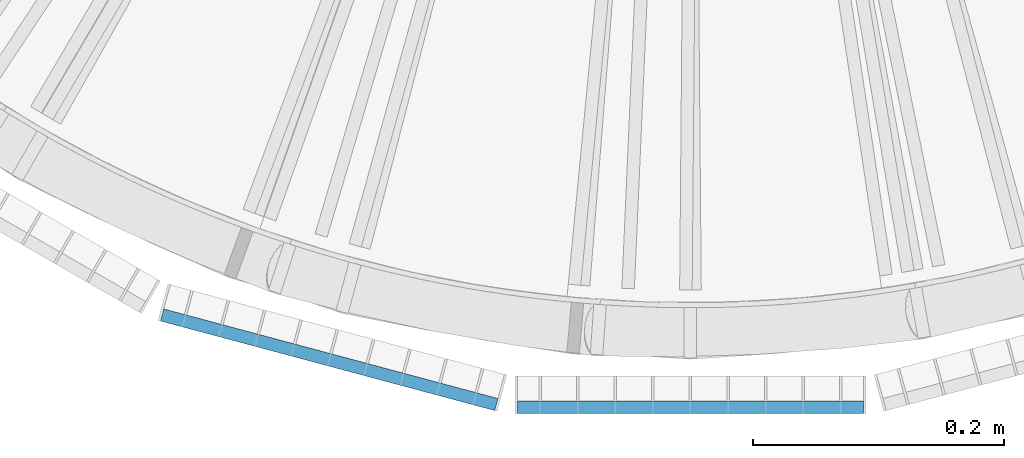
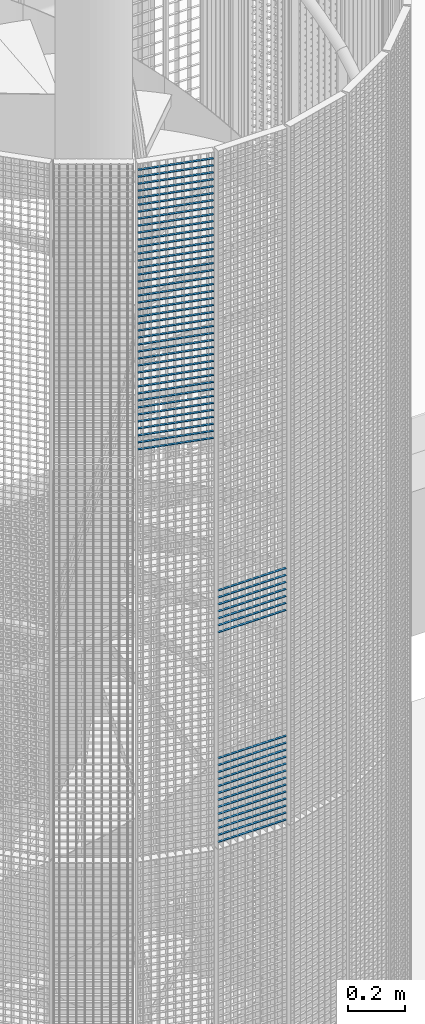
# One storey, part 138 of 1183: 61 beams, 2 elements without a shape of their own.
"""IFC2X3 building model written with IfcOpenShell, lengths in millimetres."""

from ifc_helpers import new_model, si_unit, frame, origin_with_axes, origin_2d_with_axis, place, context, subcontext, project, spatial, rectangle, extrude, material, type_object, element, aggregate, save


model = new_model("IFC2X3")

# Units and contexts
model_context = context("Model", 3, precision=1e-05, world=origin_with_axes())
body_context = subcontext(model_context, "Body", "Model", "MODEL_VIEW")
ifc_project = project(units=[si_unit("LENGTHUNIT", "METRE", prefix="MILLI"), si_unit("AREAUNIT", "SQUARE_METRE"), si_unit("VOLUMEUNIT", "CUBIC_METRE"), si_unit("MASSUNIT", "GRAM", prefix="KILO"), si_unit("TIMEUNIT", "SECOND"), si_unit("PLANEANGLEUNIT", "RADIAN"), si_unit("SOLIDANGLEUNIT", "STERADIAN"), si_unit("THERMODYNAMICTEMPERATUREUNIT", "DEGREE_CELSIUS"), si_unit("LUMINOUSINTENSITYUNIT", "LUMEN")], contexts=[model_context])

# Site, building, storey
site_placement = place(None, origin_with_axes())
site = spatial("IfcSite", under=ifc_project, at=site_placement, Name="Undefined", CompositionType="ELEMENT")
building_placement = place(site_placement, origin_with_axes())
building = spatial("IfcBuilding", under=site, at=building_placement, Name="Undefined", CompositionType="ELEMENT")
storey_placement = place(building_placement, origin_with_axes())
storey = spatial("IfcBuildingStorey", under=building, at=storey_placement, Name="Undefined", CompositionType="ELEMENT", Elevation=0.0)

# Assembly, beams
assembly_1_placement = place(storey_placement, origin_with_axes())
assembly_1 = element("IfcElementAssembly", 1, at=assembly_1_placement, inside=storey, Name="BORDURE", AssemblyPlace="NOTDEFINED", PredefinedType="NOTDEFINED")
ifc_material = material(Name="STEEL/S235JR")
beam_type = type_object("IfcBeamType", Name="PL2*10", PredefinedType="NOTDEFINED")
beam_1_placement = place(assembly_1_placement, frame((-137.996003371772, -1113.47999999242, 15390.0), z_axis=(0.0, -1.0, 0.0), x_axis=(1.0, 0.0, 0.0)))
beam_1 = element("IfcBeam", 2, at=beam_1_placement, type_object=beam_type, material=ifc_material, Name="ENTRETOISE", context=body_context, shape_type="SweptSolid", body=[
    extrude(rectangle(XDim=2.0, YDim=10.0, at=origin_2d_with_axis()), frame((275.999999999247, 9.09494701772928e-13, 1.53210777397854e-14), z_axis=(-1.0, 0.0, 0.0), x_axis=(0.0, -1.0, 0.0)), (0.0, 0.0, 1.0), 276.0),
])
beam_2_placement = place(assembly_1_placement, frame((-137.996003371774, -1113.47999999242, 15930.0), z_axis=(0.0, -1.0, 0.0), x_axis=(1.0, 0.0, 0.0)))
beam_2 = element("IfcBeam", 3, at=beam_2_placement, type_object=beam_type, material=ifc_material, Name="ENTRETOISE", context=body_context, shape_type="SweptSolid", body=[
    extrude(rectangle(XDim=2.0, YDim=10.0, at=origin_2d_with_axis()), frame((275.999999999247, 9.09494701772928e-13, 1.53210777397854e-14), z_axis=(-1.0, 0.0, 0.0), x_axis=(0.0, -1.0, 0.0)), (0.0, 0.0, 1.0), 276.0),
])
beam_3_placement = place(assembly_1_placement, frame((-137.996003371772, -1113.47999999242, 15360.0), z_axis=(0.0, -1.0, 0.0), x_axis=(1.0, 0.0, 0.0)))
beam_3 = element("IfcBeam", 4, at=beam_3_placement, type_object=beam_type, material=ifc_material, Name="ENTRETOISE", context=body_context, shape_type="SweptSolid", body=[
    extrude(rectangle(XDim=2.0, YDim=10.0, at=origin_2d_with_axis()), frame((275.999999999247, 9.09494701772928e-13, 1.53210777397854e-14), z_axis=(-1.0, 0.0, 0.0), x_axis=(0.0, -1.0, 0.0)), (0.0, 0.0, 1.0), 276.0),
])
beam_4_placement = place(assembly_1_placement, frame((-137.996003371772, -1113.47999999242, 15330.0), z_axis=(0.0, -1.0, 0.0), x_axis=(1.0, 0.0, 0.0)))
beam_4 = element("IfcBeam", 5, at=beam_4_placement, type_object=beam_type, material=ifc_material, Name="ENTRETOISE", context=body_context, shape_type="SweptSolid", body=[
    extrude(rectangle(XDim=2.0, YDim=10.0, at=origin_2d_with_axis()), frame((275.999999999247, 9.09494701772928e-13, 1.53210777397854e-14), z_axis=(-1.0, 0.0, 0.0), x_axis=(0.0, -1.0, 0.0)), (0.0, 0.0, 1.0), 276.0),
])
beam_5_placement = place(assembly_1_placement, frame((-137.996003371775, -1113.47999999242, 15960.0), z_axis=(0.0, -1.0, 0.0), x_axis=(1.0, 0.0, 0.0)))
beam_5 = element("IfcBeam", 6, at=beam_5_placement, type_object=beam_type, material=ifc_material, Name="ENTRETOISE", context=body_context, shape_type="SweptSolid", body=[
    extrude(rectangle(XDim=2.0, YDim=10.0, at=origin_2d_with_axis()), frame((275.999999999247, 9.09494701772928e-13, 1.53210777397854e-14), z_axis=(-1.0, 0.0, 0.0), x_axis=(0.0, -1.0, 0.0)), (0.0, 0.0, 1.0), 276.0),
])
beam_6_placement = place(assembly_1_placement, frame((-137.996003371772, -1113.47999999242, 15300.0), z_axis=(0.0, -1.0, 0.0), x_axis=(1.0, 0.0, 0.0)))
beam_6 = element("IfcBeam", 7, at=beam_6_placement, type_object=beam_type, material=ifc_material, Name="ENTRETOISE", context=body_context, shape_type="SweptSolid", body=[
    extrude(rectangle(XDim=2.0, YDim=10.0, at=origin_2d_with_axis()), frame((275.999999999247, 9.09494701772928e-13, 1.53210777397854e-14), z_axis=(-1.0, 0.0, 0.0), x_axis=(0.0, -1.0, 0.0)), (0.0, 0.0, 1.0), 276.0),
])
beam_7_placement = place(assembly_1_placement, frame((-137.996003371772, -1113.47999999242, 15270.0), z_axis=(0.0, -1.0, 0.0), x_axis=(1.0, 0.0, 0.0)))
beam_7 = element("IfcBeam", 8, at=beam_7_placement, type_object=beam_type, material=ifc_material, Name="ENTRETOISE", context=body_context, shape_type="SweptSolid", body=[
    extrude(rectangle(XDim=2.0, YDim=10.0, at=origin_2d_with_axis()), frame((275.999999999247, 9.09494701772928e-13, 1.53210777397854e-14), z_axis=(-1.0, 0.0, 0.0), x_axis=(0.0, -1.0, 0.0)), (0.0, 0.0, 1.0), 276.0),
])
beam_8_placement = place(assembly_1_placement, frame((-137.996003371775, -1113.47999999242, 15990.0), z_axis=(0.0, -1.0, 0.0), x_axis=(1.0, 0.0, 0.0)))
beam_8 = element("IfcBeam", 9, at=beam_8_placement, type_object=beam_type, material=ifc_material, Name="ENTRETOISE", context=body_context, shape_type="SweptSolid", body=[
    extrude(rectangle(XDim=2.0, YDim=10.0, at=origin_2d_with_axis()), frame((275.999999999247, 9.09494701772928e-13, 1.53210777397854e-14), z_axis=(-1.0, 0.0, 0.0), x_axis=(0.0, -1.0, 0.0)), (0.0, 0.0, 1.0), 276.0),
])
beam_9_placement = place(assembly_1_placement, frame((-137.996003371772, -1113.47999999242, 15240.0), z_axis=(0.0, -1.0, 0.0), x_axis=(1.0, 0.0, 0.0)))
beam_9 = element("IfcBeam", 10, at=beam_9_placement, type_object=beam_type, material=ifc_material, Name="ENTRETOISE", context=body_context, shape_type="SweptSolid", body=[
    extrude(rectangle(XDim=2.0, YDim=10.0, at=origin_2d_with_axis()), frame((275.999999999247, 9.09494701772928e-13, 1.53210777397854e-14), z_axis=(-1.0, 0.0, 0.0), x_axis=(0.0, -1.0, 0.0)), (0.0, 0.0, 1.0), 276.0),
])
beam_10_placement = place(assembly_1_placement, frame((-137.996003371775, -1113.47999999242, 16020.0), z_axis=(0.0, -1.0, 0.0), x_axis=(1.0, 0.0, 0.0)))
beam_10 = element("IfcBeam", 11, at=beam_10_placement, type_object=beam_type, material=ifc_material, Name="ENTRETOISE", context=body_context, shape_type="SweptSolid", body=[
    extrude(rectangle(XDim=2.0, YDim=10.0, at=origin_2d_with_axis()), frame((275.999999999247, 9.09494701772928e-13, 1.53210777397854e-14), z_axis=(-1.0, 0.0, 0.0), x_axis=(0.0, -1.0, 0.0)), (0.0, 0.0, 1.0), 276.0),
])
beam_11_placement = place(assembly_1_placement, frame((-137.996003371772, -1113.47999999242, 15210.0), z_axis=(0.0, -1.0, 0.0), x_axis=(1.0, 0.0, 0.0)))
beam_11 = element("IfcBeam", 12, at=beam_11_placement, type_object=beam_type, material=ifc_material, Name="ENTRETOISE", context=body_context, shape_type="SweptSolid", body=[
    extrude(rectangle(XDim=2.0, YDim=10.0, at=origin_2d_with_axis()), frame((275.999999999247, 9.09494701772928e-13, 1.53210777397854e-14), z_axis=(-1.0, 0.0, 0.0), x_axis=(0.0, -1.0, 0.0)), (0.0, 0.0, 1.0), 276.0),
])
beam_12_placement = place(assembly_1_placement, frame((-137.996003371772, -1113.47999999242, 15180.0), z_axis=(0.0, -1.0, 0.0), x_axis=(1.0, 0.0, 0.0)))
beam_12 = element("IfcBeam", 13, at=beam_12_placement, type_object=beam_type, material=ifc_material, Name="ENTRETOISE", context=body_context, shape_type="SweptSolid", body=[
    extrude(rectangle(XDim=2.0, YDim=10.0, at=origin_2d_with_axis()), frame((275.999999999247, 9.09494701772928e-13, 1.53210777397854e-14), z_axis=(-1.0, 0.0, 0.0), x_axis=(0.0, -1.0, 0.0)), (0.0, 0.0, 1.0), 276.0),
])
beam_13_placement = place(assembly_1_placement, frame((-137.996003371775, -1113.47999999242, 16050.0), z_axis=(0.0, -1.0, 0.0), x_axis=(1.0, 0.0, 0.0)))
beam_13 = element("IfcBeam", 14, at=beam_13_placement, type_object=beam_type, material=ifc_material, Name="ENTRETOISE", context=body_context, shape_type="SweptSolid", body=[
    extrude(rectangle(XDim=2.0, YDim=10.0, at=origin_2d_with_axis()), frame((275.999999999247, 9.09494701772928e-13, 1.53210777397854e-14), z_axis=(-1.0, 0.0, 0.0), x_axis=(0.0, -1.0, 0.0)), (0.0, 0.0, 1.0), 276.0),
])
beam_14_placement = place(assembly_1_placement, frame((-137.996003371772, -1113.47999999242, 15150.0), z_axis=(0.0, -1.0, 0.0), x_axis=(1.0, 0.0, 0.0)))
beam_14 = element("IfcBeam", 15, at=beam_14_placement, type_object=beam_type, material=ifc_material, Name="ENTRETOISE", context=body_context, shape_type="SweptSolid", body=[
    extrude(rectangle(XDim=2.0, YDim=10.0, at=origin_2d_with_axis()), frame((275.999999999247, 9.09494701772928e-13, 1.53210777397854e-14), z_axis=(-1.0, 0.0, 0.0), x_axis=(0.0, -1.0, 0.0)), (0.0, 0.0, 1.0), 276.0),
])
beam_15_placement = place(assembly_1_placement, frame((-137.996003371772, -1113.47999999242, 15120.0), z_axis=(0.0, -1.0, 0.0), x_axis=(1.0, 0.0, 0.0)))
beam_15 = element("IfcBeam", 16, at=beam_15_placement, type_object=beam_type, material=ifc_material, Name="ENTRETOISE", context=body_context, shape_type="SweptSolid", body=[
    extrude(rectangle(XDim=2.0, YDim=10.0, at=origin_2d_with_axis()), frame((275.999999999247, 9.09494701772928e-13, 1.53210777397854e-14), z_axis=(-1.0, 0.0, 0.0), x_axis=(0.0, -1.0, 0.0)), (0.0, 0.0, 1.0), 276.0),
])
beam_16_placement = place(assembly_1_placement, frame((-137.996003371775, -1113.47999999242, 16080.0), z_axis=(0.0, -1.0, 0.0), x_axis=(1.0, 0.0, 0.0)))
beam_16 = element("IfcBeam", 17, at=beam_16_placement, type_object=beam_type, material=ifc_material, Name="ENTRETOISE", context=body_context, shape_type="SweptSolid", body=[
    extrude(rectangle(XDim=2.0, YDim=10.0, at=origin_2d_with_axis()), frame((275.999999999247, 9.09494701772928e-13, 1.53210777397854e-14), z_axis=(-1.0, 0.0, 0.0), x_axis=(0.0, -1.0, 0.0)), (0.0, 0.0, 1.0), 276.0),
])
beam_17_placement = place(assembly_1_placement, frame((-137.996003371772, -1113.47999999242, 15090.0), z_axis=(0.0, -1.0, 0.0), x_axis=(1.0, 0.0, 0.0)))
beam_17 = element("IfcBeam", 18, at=beam_17_placement, type_object=beam_type, material=ifc_material, Name="ENTRETOISE", context=body_context, shape_type="SweptSolid", body=[
    extrude(rectangle(XDim=2.0, YDim=10.0, at=origin_2d_with_axis()), frame((275.999999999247, 9.09494701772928e-13, 1.53210777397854e-14), z_axis=(-1.0, 0.0, 0.0), x_axis=(0.0, -1.0, 0.0)), (0.0, 0.0, 1.0), 276.0),
])
beam_18_placement = place(assembly_1_placement, frame((-137.996003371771, -1113.47999999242, 15060.0), z_axis=(0.0, -1.0, 0.0), x_axis=(1.0, 0.0, 0.0)))
beam_18 = element("IfcBeam", 19, at=beam_18_placement, type_object=beam_type, material=ifc_material, Name="ENTRETOISE", context=body_context, shape_type="SweptSolid", body=[
    extrude(rectangle(XDim=2.0, YDim=10.0, at=origin_2d_with_axis()), frame((275.999999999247, 9.09494701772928e-13, 1.53210777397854e-14), z_axis=(-1.0, 0.0, 0.0), x_axis=(0.0, -1.0, 0.0)), (0.0, 0.0, 1.0), 276.0),
])
beam_19_placement = place(assembly_1_placement, frame((-137.996003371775, -1113.47999999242, 16110.0), z_axis=(0.0, -1.0, 0.0), x_axis=(1.0, 0.0, 0.0)))
beam_19 = element("IfcBeam", 20, at=beam_19_placement, type_object=beam_type, material=ifc_material, Name="ENTRETOISE", context=body_context, shape_type="SweptSolid", body=[
    extrude(rectangle(XDim=2.0, YDim=10.0, at=origin_2d_with_axis()), frame((275.999999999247, 9.09494701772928e-13, 1.53210777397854e-14), z_axis=(-1.0, 0.0, 0.0), x_axis=(0.0, -1.0, 0.0)), (0.0, 0.0, 1.0), 276.0),
])
beam_20_placement = place(assembly_1_placement, frame((-137.99600337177, -1113.47999999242, 15030.0), z_axis=(0.0, -1.0, 0.0), x_axis=(1.0, 0.0, 0.0)))
beam_20 = element("IfcBeam", 21, at=beam_20_placement, type_object=beam_type, material=ifc_material, Name="ENTRETOISE", context=body_context, shape_type="SweptSolid", body=[
    extrude(rectangle(XDim=2.0, YDim=10.0, at=origin_2d_with_axis()), frame((275.999999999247, 9.09494701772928e-13, 1.53210777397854e-14), z_axis=(-1.0, 0.0, 0.0), x_axis=(0.0, -1.0, 0.0)), (0.0, 0.0, 1.0), 276.0),
])
aggregate(assembly_1, [beam_1, beam_2, beam_3, beam_4, beam_5, beam_6, beam_7, beam_8, beam_9, beam_10, beam_11, beam_12, beam_13, beam_14, beam_15, beam_16, beam_17, beam_18, beam_19, beam_20])

assembly_2_placement = place(storey_placement, origin_with_axes())
assembly_2 = element("IfcElementAssembly", 22, at=assembly_2_placement, inside=storey, Name="BORDURE", AssemblyPlace="NOTDEFINED", PredefinedType="NOTDEFINED")
beam_21_placement = place(assembly_2_placement, frame((-421.483733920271, -1039.82309522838, 17970.0), z_axis=(-0.258819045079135, -0.965925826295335, 0.0), x_axis=(0.965925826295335, -0.258819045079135, 0.0)))
beam_21 = element("IfcBeam", 23, at=beam_21_placement, type_object=beam_type, material=ifc_material, Name="ENTRETOISE", context=body_context, shape_type="SweptSolid", body=[
    extrude(rectangle(XDim=2.0, YDim=10.0, at=origin_2d_with_axis()), frame((275.999999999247, 9.09494701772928e-13, 1.53210777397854e-14), z_axis=(-1.0, 0.0, 0.0), x_axis=(0.0, -1.0, 0.0)), (0.0, 0.0, 1.0), 276.0),
])
beam_22_placement = place(assembly_2_placement, frame((-421.483733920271, -1039.82309522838, 17940.0), z_axis=(-0.258819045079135, -0.965925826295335, 0.0), x_axis=(0.965925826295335, -0.258819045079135, 0.0)))
beam_22 = element("IfcBeam", 24, at=beam_22_placement, type_object=beam_type, material=ifc_material, Name="ENTRETOISE", context=body_context, shape_type="SweptSolid", body=[
    extrude(rectangle(XDim=2.0, YDim=10.0, at=origin_2d_with_axis()), frame((275.999999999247, 9.09494701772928e-13, 1.53210777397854e-14), z_axis=(-1.0, 0.0, 0.0), x_axis=(0.0, -1.0, 0.0)), (0.0, 0.0, 1.0), 276.0),
])
beam_23_placement = place(assembly_2_placement, frame((-421.483733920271, -1039.82309522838, 17910.0), z_axis=(-0.258819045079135, -0.965925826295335, 0.0), x_axis=(0.965925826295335, -0.258819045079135, 0.0)))
beam_23 = element("IfcBeam", 25, at=beam_23_placement, type_object=beam_type, material=ifc_material, Name="ENTRETOISE", context=body_context, shape_type="SweptSolid", body=[
    extrude(rectangle(XDim=2.0, YDim=10.0, at=origin_2d_with_axis()), frame((275.999999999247, 9.09494701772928e-13, 1.53210777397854e-14), z_axis=(-1.0, 0.0, 0.0), x_axis=(0.0, -1.0, 0.0)), (0.0, 0.0, 1.0), 276.0),
])
beam_24_placement = place(assembly_2_placement, frame((-421.483733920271, -1039.82309522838, 17880.0), z_axis=(-0.258819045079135, -0.965925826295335, 0.0), x_axis=(0.965925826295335, -0.258819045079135, 0.0)))
beam_24 = element("IfcBeam", 26, at=beam_24_placement, type_object=beam_type, material=ifc_material, Name="ENTRETOISE", context=body_context, shape_type="SweptSolid", body=[
    extrude(rectangle(XDim=2.0, YDim=10.0, at=origin_2d_with_axis()), frame((275.999999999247, 9.09494701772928e-13, 1.53210777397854e-14), z_axis=(-1.0, 0.0, 0.0), x_axis=(0.0, -1.0, 0.0)), (0.0, 0.0, 1.0), 276.0),
])
beam_25_placement = place(assembly_2_placement, frame((-421.483733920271, -1039.82309522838, 17850.0), z_axis=(-0.258819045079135, -0.965925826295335, 0.0), x_axis=(0.965925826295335, -0.258819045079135, 0.0)))
beam_25 = element("IfcBeam", 27, at=beam_25_placement, type_object=beam_type, material=ifc_material, Name="ENTRETOISE", context=body_context, shape_type="SweptSolid", body=[
    extrude(rectangle(XDim=2.0, YDim=10.0, at=origin_2d_with_axis()), frame((275.999999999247, 9.09494701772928e-13, 1.53210777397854e-14), z_axis=(-1.0, 0.0, 0.0), x_axis=(0.0, -1.0, 0.0)), (0.0, 0.0, 1.0), 276.0),
])
beam_26_placement = place(assembly_2_placement, frame((-421.483733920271, -1039.82309522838, 17820.0), z_axis=(-0.258819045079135, -0.965925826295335, 0.0), x_axis=(0.965925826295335, -0.258819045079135, 0.0)))
beam_26 = element("IfcBeam", 28, at=beam_26_placement, type_object=beam_type, material=ifc_material, Name="ENTRETOISE", context=body_context, shape_type="SweptSolid", body=[
    extrude(rectangle(XDim=2.0, YDim=10.0, at=origin_2d_with_axis()), frame((275.999999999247, 9.09494701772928e-13, 1.53210777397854e-14), z_axis=(-1.0, 0.0, 0.0), x_axis=(0.0, -1.0, 0.0)), (0.0, 0.0, 1.0), 276.0),
])
beam_27_placement = place(assembly_2_placement, frame((-421.483733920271, -1039.82309522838, 17790.0), z_axis=(-0.258819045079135, -0.965925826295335, 0.0), x_axis=(0.965925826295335, -0.258819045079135, 0.0)))
beam_27 = element("IfcBeam", 29, at=beam_27_placement, type_object=beam_type, material=ifc_material, Name="ENTRETOISE", context=body_context, shape_type="SweptSolid", body=[
    extrude(rectangle(XDim=2.0, YDim=10.0, at=origin_2d_with_axis()), frame((275.999999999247, 9.09494701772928e-13, 1.53210777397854e-14), z_axis=(-1.0, 0.0, 0.0), x_axis=(0.0, -1.0, 0.0)), (0.0, 0.0, 1.0), 276.0),
])
beam_28_placement = place(assembly_2_placement, frame((-421.483733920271, -1039.82309522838, 17760.0), z_axis=(-0.258819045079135, -0.965925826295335, 0.0), x_axis=(0.965925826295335, -0.258819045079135, 0.0)))
beam_28 = element("IfcBeam", 30, at=beam_28_placement, type_object=beam_type, material=ifc_material, Name="ENTRETOISE", context=body_context, shape_type="SweptSolid", body=[
    extrude(rectangle(XDim=2.0, YDim=10.0, at=origin_2d_with_axis()), frame((275.999999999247, 9.09494701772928e-13, 1.53210777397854e-14), z_axis=(-1.0, 0.0, 0.0), x_axis=(0.0, -1.0, 0.0)), (0.0, 0.0, 1.0), 276.0),
])
beam_29_placement = place(assembly_2_placement, frame((-421.483733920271, -1039.82309522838, 17730.0), z_axis=(-0.258819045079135, -0.965925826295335, 0.0), x_axis=(0.965925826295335, -0.258819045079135, 0.0)))
beam_29 = element("IfcBeam", 31, at=beam_29_placement, type_object=beam_type, material=ifc_material, Name="ENTRETOISE", context=body_context, shape_type="SweptSolid", body=[
    extrude(rectangle(XDim=2.0, YDim=10.0, at=origin_2d_with_axis()), frame((275.999999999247, 9.09494701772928e-13, 1.53210777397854e-14), z_axis=(-1.0, 0.0, 0.0), x_axis=(0.0, -1.0, 0.0)), (0.0, 0.0, 1.0), 276.0),
])
beam_30_placement = place(assembly_2_placement, frame((-421.48373392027, -1039.82309522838, 17700.0), z_axis=(-0.258819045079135, -0.965925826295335, 0.0), x_axis=(0.965925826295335, -0.258819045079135, 0.0)))
beam_30 = element("IfcBeam", 32, at=beam_30_placement, type_object=beam_type, material=ifc_material, Name="ENTRETOISE", context=body_context, shape_type="SweptSolid", body=[
    extrude(rectangle(XDim=2.0, YDim=10.0, at=origin_2d_with_axis()), frame((275.999999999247, 9.09494701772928e-13, 1.53210777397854e-14), z_axis=(-1.0, 0.0, 0.0), x_axis=(0.0, -1.0, 0.0)), (0.0, 0.0, 1.0), 276.0),
])
beam_31_placement = place(assembly_2_placement, frame((-421.48373392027, -1039.82309522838, 17670.0), z_axis=(-0.258819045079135, -0.965925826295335, 0.0), x_axis=(0.965925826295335, -0.258819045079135, 0.0)))
beam_31 = element("IfcBeam", 33, at=beam_31_placement, type_object=beam_type, material=ifc_material, Name="ENTRETOISE", context=body_context, shape_type="SweptSolid", body=[
    extrude(rectangle(XDim=2.0, YDim=10.0, at=origin_2d_with_axis()), frame((275.999999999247, 9.09494701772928e-13, 1.53210777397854e-14), z_axis=(-1.0, 0.0, 0.0), x_axis=(0.0, -1.0, 0.0)), (0.0, 0.0, 1.0), 276.0),
])
beam_32_placement = place(assembly_2_placement, frame((-421.48373392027, -1039.82309522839, 17640.0), z_axis=(-0.258819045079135, -0.965925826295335, 0.0), x_axis=(0.965925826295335, -0.258819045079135, 0.0)))
beam_32 = element("IfcBeam", 34, at=beam_32_placement, type_object=beam_type, material=ifc_material, Name="ENTRETOISE", context=body_context, shape_type="SweptSolid", body=[
    extrude(rectangle(XDim=2.0, YDim=10.0, at=origin_2d_with_axis()), frame((275.999999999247, 9.09494701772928e-13, 1.53210777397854e-14), z_axis=(-1.0, 0.0, 0.0), x_axis=(0.0, -1.0, 0.0)), (0.0, 0.0, 1.0), 276.0),
])
beam_33_placement = place(assembly_2_placement, frame((-421.48373392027, -1039.82309522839, 17610.0), z_axis=(-0.258819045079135, -0.965925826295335, 0.0), x_axis=(0.965925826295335, -0.258819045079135, 0.0)))
beam_33 = element("IfcBeam", 35, at=beam_33_placement, type_object=beam_type, material=ifc_material, Name="ENTRETOISE", context=body_context, shape_type="SweptSolid", body=[
    extrude(rectangle(XDim=2.0, YDim=10.0, at=origin_2d_with_axis()), frame((275.999999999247, 9.09494701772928e-13, 1.53210777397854e-14), z_axis=(-1.0, 0.0, 0.0), x_axis=(0.0, -1.0, 0.0)), (0.0, 0.0, 1.0), 276.0),
])
beam_34_placement = place(assembly_2_placement, frame((-421.48373392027, -1039.82309522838, 17580.0), z_axis=(-0.258819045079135, -0.965925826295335, 0.0), x_axis=(0.965925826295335, -0.258819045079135, 0.0)))
beam_34 = element("IfcBeam", 36, at=beam_34_placement, type_object=beam_type, material=ifc_material, Name="ENTRETOISE", context=body_context, shape_type="SweptSolid", body=[
    extrude(rectangle(XDim=2.0, YDim=10.0, at=origin_2d_with_axis()), frame((275.999999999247, 9.09494701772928e-13, 1.53210777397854e-14), z_axis=(-1.0, 0.0, 0.0), x_axis=(0.0, -1.0, 0.0)), (0.0, 0.0, 1.0), 276.0),
])
beam_35_placement = place(assembly_2_placement, frame((-421.48373392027, -1039.82309522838, 17550.0), z_axis=(-0.258819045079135, -0.965925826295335, 0.0), x_axis=(0.965925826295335, -0.258819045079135, 0.0)))
beam_35 = element("IfcBeam", 37, at=beam_35_placement, type_object=beam_type, material=ifc_material, Name="ENTRETOISE", context=body_context, shape_type="SweptSolid", body=[
    extrude(rectangle(XDim=2.0, YDim=10.0, at=origin_2d_with_axis()), frame((275.999999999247, 9.09494701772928e-13, 1.53210777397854e-14), z_axis=(-1.0, 0.0, 0.0), x_axis=(0.0, -1.0, 0.0)), (0.0, 0.0, 1.0), 276.0),
])
beam_36_placement = place(assembly_2_placement, frame((-421.48373392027, -1039.82309522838, 17520.0), z_axis=(-0.258819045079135, -0.965925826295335, 0.0), x_axis=(0.965925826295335, -0.258819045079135, 0.0)))
beam_36 = element("IfcBeam", 38, at=beam_36_placement, type_object=beam_type, material=ifc_material, Name="ENTRETOISE", context=body_context, shape_type="SweptSolid", body=[
    extrude(rectangle(XDim=2.0, YDim=10.0, at=origin_2d_with_axis()), frame((275.999999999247, 9.09494701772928e-13, 1.53210777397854e-14), z_axis=(-1.0, 0.0, 0.0), x_axis=(0.0, -1.0, 0.0)), (0.0, 0.0, 1.0), 276.0),
])
beam_37_placement = place(assembly_2_placement, frame((-421.48373392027, -1039.82309522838, 17490.0), z_axis=(-0.258819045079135, -0.965925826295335, 0.0), x_axis=(0.965925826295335, -0.258819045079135, 0.0)))
beam_37 = element("IfcBeam", 39, at=beam_37_placement, type_object=beam_type, material=ifc_material, Name="ENTRETOISE", context=body_context, shape_type="SweptSolid", body=[
    extrude(rectangle(XDim=2.0, YDim=10.0, at=origin_2d_with_axis()), frame((275.999999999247, 9.09494701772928e-13, 1.53210777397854e-14), z_axis=(-1.0, 0.0, 0.0), x_axis=(0.0, -1.0, 0.0)), (0.0, 0.0, 1.0), 276.0),
])
beam_38_placement = place(assembly_2_placement, frame((-421.48373392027, -1039.82309522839, 17460.0), z_axis=(-0.258819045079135, -0.965925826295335, 0.0), x_axis=(0.965925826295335, -0.258819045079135, 0.0)))
beam_38 = element("IfcBeam", 40, at=beam_38_placement, type_object=beam_type, material=ifc_material, Name="ENTRETOISE", context=body_context, shape_type="SweptSolid", body=[
    extrude(rectangle(XDim=2.0, YDim=10.0, at=origin_2d_with_axis()), frame((275.999999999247, 9.09494701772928e-13, 1.53210777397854e-14), z_axis=(-1.0, 0.0, 0.0), x_axis=(0.0, -1.0, 0.0)), (0.0, 0.0, 1.0), 276.0),
])
beam_39_placement = place(assembly_2_placement, frame((-421.48373392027, -1039.82309522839, 17430.0), z_axis=(-0.258819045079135, -0.965925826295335, 0.0), x_axis=(0.965925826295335, -0.258819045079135, 0.0)))
beam_39 = element("IfcBeam", 41, at=beam_39_placement, type_object=beam_type, material=ifc_material, Name="ENTRETOISE", context=body_context, shape_type="SweptSolid", body=[
    extrude(rectangle(XDim=2.0, YDim=10.0, at=origin_2d_with_axis()), frame((275.999999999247, 9.09494701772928e-13, 1.53210777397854e-14), z_axis=(-1.0, 0.0, 0.0), x_axis=(0.0, -1.0, 0.0)), (0.0, 0.0, 1.0), 276.0),
])
beam_40_placement = place(assembly_2_placement, frame((-421.483733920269, -1039.82309522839, 17400.0), z_axis=(-0.258819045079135, -0.965925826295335, 0.0), x_axis=(0.965925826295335, -0.258819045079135, 0.0)))
beam_40 = element("IfcBeam", 42, at=beam_40_placement, type_object=beam_type, material=ifc_material, Name="ENTRETOISE", context=body_context, shape_type="SweptSolid", body=[
    extrude(rectangle(XDim=2.0, YDim=10.0, at=origin_2d_with_axis()), frame((275.999999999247, 9.09494701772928e-13, 1.53210777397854e-14), z_axis=(-1.0, 0.0, 0.0), x_axis=(0.0, -1.0, 0.0)), (0.0, 0.0, 1.0), 276.0),
])
beam_41_placement = place(assembly_2_placement, frame((-421.483733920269, -1039.82309522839, 17370.0), z_axis=(-0.258819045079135, -0.965925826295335, 0.0), x_axis=(0.965925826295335, -0.258819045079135, 0.0)))
beam_41 = element("IfcBeam", 43, at=beam_41_placement, type_object=beam_type, material=ifc_material, Name="ENTRETOISE", context=body_context, shape_type="SweptSolid", body=[
    extrude(rectangle(XDim=2.0, YDim=10.0, at=origin_2d_with_axis()), frame((275.999999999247, 9.09494701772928e-13, 1.53210777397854e-14), z_axis=(-1.0, 0.0, 0.0), x_axis=(0.0, -1.0, 0.0)), (0.0, 0.0, 1.0), 276.0),
])
beam_42_placement = place(assembly_2_placement, frame((-421.483733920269, -1039.82309522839, 17340.0), z_axis=(-0.258819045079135, -0.965925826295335, 0.0), x_axis=(0.965925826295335, -0.258819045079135, 0.0)))
beam_42 = element("IfcBeam", 44, at=beam_42_placement, type_object=beam_type, material=ifc_material, Name="ENTRETOISE", context=body_context, shape_type="SweptSolid", body=[
    extrude(rectangle(XDim=2.0, YDim=10.0, at=origin_2d_with_axis()), frame((275.999999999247, 9.09494701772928e-13, 1.53210777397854e-14), z_axis=(-1.0, 0.0, 0.0), x_axis=(0.0, -1.0, 0.0)), (0.0, 0.0, 1.0), 276.0),
])
beam_43_placement = place(assembly_2_placement, frame((-421.483733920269, -1039.82309522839, 17310.0), z_axis=(-0.258819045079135, -0.965925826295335, 0.0), x_axis=(0.965925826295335, -0.258819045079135, 0.0)))
beam_43 = element("IfcBeam", 45, at=beam_43_placement, type_object=beam_type, material=ifc_material, Name="ENTRETOISE", context=body_context, shape_type="SweptSolid", body=[
    extrude(rectangle(XDim=2.0, YDim=10.0, at=origin_2d_with_axis()), frame((275.999999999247, 9.09494701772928e-13, 1.53210777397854e-14), z_axis=(-1.0, 0.0, 0.0), x_axis=(0.0, -1.0, 0.0)), (0.0, 0.0, 1.0), 276.0),
])
beam_44_placement = place(assembly_2_placement, frame((-421.483733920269, -1039.82309522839, 17280.0), z_axis=(-0.258819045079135, -0.965925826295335, 0.0), x_axis=(0.965925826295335, -0.258819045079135, 0.0)))
beam_44 = element("IfcBeam", 46, at=beam_44_placement, type_object=beam_type, material=ifc_material, Name="ENTRETOISE", context=body_context, shape_type="SweptSolid", body=[
    extrude(rectangle(XDim=2.0, YDim=10.0, at=origin_2d_with_axis()), frame((275.999999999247, 9.09494701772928e-13, 1.53210777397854e-14), z_axis=(-1.0, 0.0, 0.0), x_axis=(0.0, -1.0, 0.0)), (0.0, 0.0, 1.0), 276.0),
])
beam_45_placement = place(assembly_2_placement, frame((-421.483733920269, -1039.82309522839, 17250.0), z_axis=(-0.258819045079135, -0.965925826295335, 0.0), x_axis=(0.965925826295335, -0.258819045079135, 0.0)))
beam_45 = element("IfcBeam", 47, at=beam_45_placement, type_object=beam_type, material=ifc_material, Name="ENTRETOISE", context=body_context, shape_type="SweptSolid", body=[
    extrude(rectangle(XDim=2.0, YDim=10.0, at=origin_2d_with_axis()), frame((275.999999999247, 9.09494701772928e-13, 1.53210777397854e-14), z_axis=(-1.0, 0.0, 0.0), x_axis=(0.0, -1.0, 0.0)), (0.0, 0.0, 1.0), 276.0),
])
beam_46_placement = place(assembly_2_placement, frame((-421.483733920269, -1039.82309522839, 17220.0), z_axis=(-0.258819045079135, -0.965925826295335, 0.0), x_axis=(0.965925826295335, -0.258819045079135, 0.0)))
beam_46 = element("IfcBeam", 48, at=beam_46_placement, type_object=beam_type, material=ifc_material, Name="ENTRETOISE", context=body_context, shape_type="SweptSolid", body=[
    extrude(rectangle(XDim=2.0, YDim=10.0, at=origin_2d_with_axis()), frame((275.999999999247, 9.09494701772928e-13, 1.53210777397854e-14), z_axis=(-1.0, 0.0, 0.0), x_axis=(0.0, -1.0, 0.0)), (0.0, 0.0, 1.0), 276.0),
])
beam_47_placement = place(assembly_2_placement, frame((-421.483733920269, -1039.82309522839, 17190.0), z_axis=(-0.258819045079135, -0.965925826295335, 0.0), x_axis=(0.965925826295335, -0.258819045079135, 0.0)))
beam_47 = element("IfcBeam", 49, at=beam_47_placement, type_object=beam_type, material=ifc_material, Name="ENTRETOISE", context=body_context, shape_type="SweptSolid", body=[
    extrude(rectangle(XDim=2.0, YDim=10.0, at=origin_2d_with_axis()), frame((275.999999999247, 9.09494701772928e-13, 1.53210777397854e-14), z_axis=(-1.0, 0.0, 0.0), x_axis=(0.0, -1.0, 0.0)), (0.0, 0.0, 1.0), 276.0),
])
beam_48_placement = place(assembly_2_placement, frame((-421.483733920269, -1039.82309522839, 17160.0), z_axis=(-0.258819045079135, -0.965925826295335, 0.0), x_axis=(0.965925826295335, -0.258819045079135, 0.0)))
beam_48 = element("IfcBeam", 50, at=beam_48_placement, type_object=beam_type, material=ifc_material, Name="ENTRETOISE", context=body_context, shape_type="SweptSolid", body=[
    extrude(rectangle(XDim=2.0, YDim=10.0, at=origin_2d_with_axis()), frame((275.999999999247, 9.09494701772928e-13, 1.53210777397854e-14), z_axis=(-1.0, 0.0, 0.0), x_axis=(0.0, -1.0, 0.0)), (0.0, 0.0, 1.0), 276.0),
])
beam_49_placement = place(assembly_2_placement, frame((-421.483733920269, -1039.82309522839, 17130.0), z_axis=(-0.258819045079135, -0.965925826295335, 0.0), x_axis=(0.965925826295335, -0.258819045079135, 0.0)))
beam_49 = element("IfcBeam", 51, at=beam_49_placement, type_object=beam_type, material=ifc_material, Name="ENTRETOISE", context=body_context, shape_type="SweptSolid", body=[
    extrude(rectangle(XDim=2.0, YDim=10.0, at=origin_2d_with_axis()), frame((275.999999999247, 9.09494701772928e-13, 1.53210777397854e-14), z_axis=(-1.0, 0.0, 0.0), x_axis=(0.0, -1.0, 0.0)), (0.0, 0.0, 1.0), 276.0),
])
beam_50_placement = place(assembly_2_placement, frame((-421.483733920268, -1039.82309522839, 17100.0), z_axis=(-0.258819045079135, -0.965925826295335, 0.0), x_axis=(0.965925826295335, -0.258819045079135, 0.0)))
beam_50 = element("IfcBeam", 52, at=beam_50_placement, type_object=beam_type, material=ifc_material, Name="ENTRETOISE", context=body_context, shape_type="SweptSolid", body=[
    extrude(rectangle(XDim=2.0, YDim=10.0, at=origin_2d_with_axis()), frame((275.999999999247, 9.09494701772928e-13, 1.53210777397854e-14), z_axis=(-1.0, 0.0, 0.0), x_axis=(0.0, -1.0, 0.0)), (0.0, 0.0, 1.0), 276.0),
])
beam_51_placement = place(assembly_2_placement, frame((-421.483733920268, -1039.82309522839, 17070.0), z_axis=(-0.258819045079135, -0.965925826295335, 0.0), x_axis=(0.965925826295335, -0.258819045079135, 0.0)))
beam_51 = element("IfcBeam", 53, at=beam_51_placement, type_object=beam_type, material=ifc_material, Name="ENTRETOISE", context=body_context, shape_type="SweptSolid", body=[
    extrude(rectangle(XDim=2.0, YDim=10.0, at=origin_2d_with_axis()), frame((275.999999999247, 9.09494701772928e-13, 1.53210777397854e-14), z_axis=(-1.0, 0.0, 0.0), x_axis=(0.0, -1.0, 0.0)), (0.0, 0.0, 1.0), 276.0),
])
beam_52_placement = place(assembly_2_placement, frame((-421.483733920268, -1039.82309522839, 17040.0), z_axis=(-0.258819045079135, -0.965925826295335, 0.0), x_axis=(0.965925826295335, -0.258819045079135, 0.0)))
beam_52 = element("IfcBeam", 54, at=beam_52_placement, type_object=beam_type, material=ifc_material, Name="ENTRETOISE", context=body_context, shape_type="SweptSolid", body=[
    extrude(rectangle(XDim=2.0, YDim=10.0, at=origin_2d_with_axis()), frame((275.999999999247, 9.09494701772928e-13, 1.53210777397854e-14), z_axis=(-1.0, 0.0, 0.0), x_axis=(0.0, -1.0, 0.0)), (0.0, 0.0, 1.0), 276.0),
])
beam_53_placement = place(assembly_2_placement, frame((-421.483733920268, -1039.82309522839, 17010.0), z_axis=(-0.258819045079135, -0.965925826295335, 0.0), x_axis=(0.965925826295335, -0.258819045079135, 0.0)))
beam_53 = element("IfcBeam", 55, at=beam_53_placement, type_object=beam_type, material=ifc_material, Name="ENTRETOISE", context=body_context, shape_type="SweptSolid", body=[
    extrude(rectangle(XDim=2.0, YDim=10.0, at=origin_2d_with_axis()), frame((275.999999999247, 9.09494701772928e-13, 1.53210777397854e-14), z_axis=(-1.0, 0.0, 0.0), x_axis=(0.0, -1.0, 0.0)), (0.0, 0.0, 1.0), 276.0),
])
beam_54_placement = place(assembly_2_placement, frame((-421.483733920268, -1039.82309522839, 16980.0), z_axis=(-0.258819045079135, -0.965925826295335, 0.0), x_axis=(0.965925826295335, -0.258819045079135, 0.0)))
beam_54 = element("IfcBeam", 56, at=beam_54_placement, type_object=beam_type, material=ifc_material, Name="ENTRETOISE", context=body_context, shape_type="SweptSolid", body=[
    extrude(rectangle(XDim=2.0, YDim=10.0, at=origin_2d_with_axis()), frame((275.999999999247, 9.09494701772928e-13, 1.53210777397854e-14), z_axis=(-1.0, 0.0, 0.0), x_axis=(0.0, -1.0, 0.0)), (0.0, 0.0, 1.0), 276.0),
])
beam_55_placement = place(assembly_2_placement, frame((-421.483733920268, -1039.82309522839, 16950.0), z_axis=(-0.258819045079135, -0.965925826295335, 0.0), x_axis=(0.965925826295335, -0.258819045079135, 0.0)))
beam_55 = element("IfcBeam", 57, at=beam_55_placement, type_object=beam_type, material=ifc_material, Name="ENTRETOISE", context=body_context, shape_type="SweptSolid", body=[
    extrude(rectangle(XDim=2.0, YDim=10.0, at=origin_2d_with_axis()), frame((275.999999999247, 9.09494701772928e-13, 1.53210777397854e-14), z_axis=(-1.0, 0.0, 0.0), x_axis=(0.0, -1.0, 0.0)), (0.0, 0.0, 1.0), 276.0),
])
beam_56_placement = place(assembly_2_placement, frame((-421.483733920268, -1039.82309522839, 16920.0), z_axis=(-0.258819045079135, -0.965925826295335, 0.0), x_axis=(0.965925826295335, -0.258819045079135, 0.0)))
beam_56 = element("IfcBeam", 58, at=beam_56_placement, type_object=beam_type, material=ifc_material, Name="ENTRETOISE", context=body_context, shape_type="SweptSolid", body=[
    extrude(rectangle(XDim=2.0, YDim=10.0, at=origin_2d_with_axis()), frame((275.999999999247, 9.09494701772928e-13, 1.53210777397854e-14), z_axis=(-1.0, 0.0, 0.0), x_axis=(0.0, -1.0, 0.0)), (0.0, 0.0, 1.0), 276.0),
])
beam_57_placement = place(assembly_2_placement, frame((-421.483733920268, -1039.82309522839, 16890.0), z_axis=(-0.258819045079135, -0.965925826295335, 0.0), x_axis=(0.965925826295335, -0.258819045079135, 0.0)))
beam_57 = element("IfcBeam", 59, at=beam_57_placement, type_object=beam_type, material=ifc_material, Name="ENTRETOISE", context=body_context, shape_type="SweptSolid", body=[
    extrude(rectangle(XDim=2.0, YDim=10.0, at=origin_2d_with_axis()), frame((275.999999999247, 9.09494701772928e-13, 1.53210777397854e-14), z_axis=(-1.0, 0.0, 0.0), x_axis=(0.0, -1.0, 0.0)), (0.0, 0.0, 1.0), 276.0),
])
beam_58_placement = place(assembly_2_placement, frame((-421.483733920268, -1039.82309522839, 16860.0), z_axis=(-0.258819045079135, -0.965925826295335, 0.0), x_axis=(0.965925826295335, -0.258819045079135, 0.0)))
beam_58 = element("IfcBeam", 60, at=beam_58_placement, type_object=beam_type, material=ifc_material, Name="ENTRETOISE", context=body_context, shape_type="SweptSolid", body=[
    extrude(rectangle(XDim=2.0, YDim=10.0, at=origin_2d_with_axis()), frame((275.999999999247, 9.09494701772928e-13, 1.53210777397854e-14), z_axis=(-1.0, 0.0, 0.0), x_axis=(0.0, -1.0, 0.0)), (0.0, 0.0, 1.0), 276.0),
])
beam_59_placement = place(assembly_2_placement, frame((-421.483733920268, -1039.82309522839, 16830.0), z_axis=(-0.258819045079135, -0.965925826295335, 0.0), x_axis=(0.965925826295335, -0.258819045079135, 0.0)))
beam_59 = element("IfcBeam", 61, at=beam_59_placement, type_object=beam_type, material=ifc_material, Name="ENTRETOISE", context=body_context, shape_type="SweptSolid", body=[
    extrude(rectangle(XDim=2.0, YDim=10.0, at=origin_2d_with_axis()), frame((275.999999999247, 9.09494701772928e-13, 1.53210777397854e-14), z_axis=(-1.0, 0.0, 0.0), x_axis=(0.0, -1.0, 0.0)), (0.0, 0.0, 1.0), 276.0),
])
beam_60_placement = place(assembly_2_placement, frame((-421.483733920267, -1039.82309522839, 16800.0), z_axis=(-0.258819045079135, -0.965925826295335, 0.0), x_axis=(0.965925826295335, -0.258819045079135, 0.0)))
beam_60 = element("IfcBeam", 62, at=beam_60_placement, type_object=beam_type, material=ifc_material, Name="ENTRETOISE", context=body_context, shape_type="SweptSolid", body=[
    extrude(rectangle(XDim=2.0, YDim=10.0, at=origin_2d_with_axis()), frame((275.999999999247, 9.09494701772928e-13, 1.53210777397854e-14), z_axis=(-1.0, 0.0, 0.0), x_axis=(0.0, -1.0, 0.0)), (0.0, 0.0, 1.0), 276.0),
])
beam_61_placement = place(assembly_2_placement, frame((-421.483733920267, -1039.82309522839, 16770.0), z_axis=(-0.258819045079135, -0.965925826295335, 0.0), x_axis=(0.965925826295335, -0.258819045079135, 0.0)))
beam_61 = element("IfcBeam", 63, at=beam_61_placement, type_object=beam_type, material=ifc_material, Name="ENTRETOISE", context=body_context, shape_type="SweptSolid", body=[
    extrude(rectangle(XDim=2.0, YDim=10.0, at=origin_2d_with_axis()), frame((275.999999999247, 9.09494701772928e-13, 1.53210777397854e-14), z_axis=(-1.0, 0.0, 0.0), x_axis=(0.0, -1.0, 0.0)), (0.0, 0.0, 1.0), 276.0),
])
aggregate(assembly_2, [beam_21, beam_22, beam_23, beam_24, beam_25, beam_26, beam_27, beam_28, beam_29, beam_30, beam_31, beam_32, beam_33, beam_34, beam_35, beam_36, beam_37, beam_38, beam_39, beam_40, beam_41, beam_42, beam_43, beam_44, beam_45, beam_46, beam_47, beam_48, beam_49, beam_50, beam_51, beam_52, beam_53, beam_54, beam_55, beam_56, beam_57, beam_58, beam_59, beam_60, beam_61])

save(model, "model.ifc")
